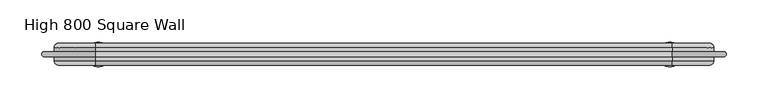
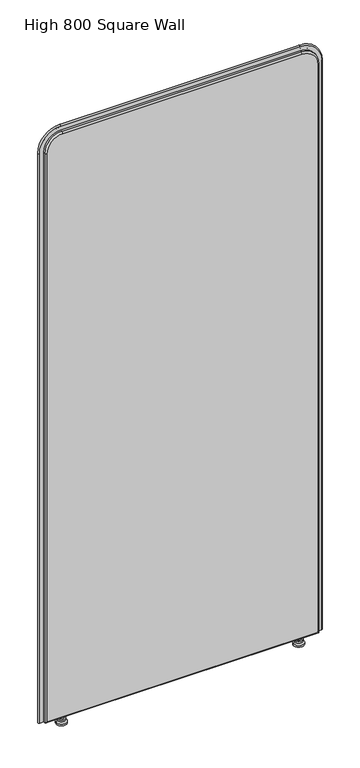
"""IFC4 building model written with IfcOpenShell, lengths in millimetres: furniture geometry, DBLTD_Sixteen3_PrivacyScreens_Artus_Square : High 800 Square Wall."""

from ifc_helpers import new_model, si_unit, point, frame, origin, place, context, project, spatial, polyline, circle_curve, ellipse_curve, trimmed, source, transform, mapped, element, save
from ifc_brep_helpers import plane_surface, cylinder_surface, revolved_surface, advanced_brep


def high_800_square_wall_713c82bf(model_context):
    return source(origin(), model_context, "Body", "AdvancedBrep", [
        advanced_brep(
        [(342.2938623, -820.0, 22.0), (335.2938623, -820.0, 22.0), (349.2938623, -820.0, 22.0), (335.2938623, -820.0, 15.0), (349.2938623, -820.0, 15.0), (330.8431626, -820.0, 15.0), (353.744562, -820.0, 15.0), (330.8431626, -820.0, 10.0), (353.744562, -820.0, 10.0), (327.2938623, -820.0, 5.0), (357.2938623, -820.0, 5.0), (327.2938623, -820.0, 0.0), (357.2938623, -820.0, 0.0), (342.2938623, -820.0, 0.0)],
        [
            (0, 1),
            (1, 2, circle_curve(frame((342.2938623, -820.0, 22.0), z_axis=(0.0, 0.0, 1.0), x_axis=(1.0, 0.0, 0.0)), 7.0)),
            (2, 0),
            (2, 1, circle_curve(frame((342.2938623, -820.0, 22.0), z_axis=(0.0, 0.0, 1.0), x_axis=(1.0, 0.0, 0.0)), 7.0)),
            (1, 3),
            (3, 4, circle_curve(frame((342.2938623, -820.0, 15.0), z_axis=(0.0, 0.0, 1.0), x_axis=(1.0, 0.0, 0.0)), 7.0)),
            (4, 2),
            (4, 3, circle_curve(frame((342.2938623, -820.0, 15.0), z_axis=(0.0, 0.0, 1.0), x_axis=(1.0, 0.0, 0.0)), 7.0)),
            (3, 5),
            (5, 6, circle_curve(frame((342.2938623, -820.0, 15.0), z_axis=(0.0, 0.0, 1.0), x_axis=(1.0, 0.0, 0.0)), 11.4506997)),
            (6, 4),
            (6, 5, circle_curve(frame((342.2938623, -820.0, 15.0), z_axis=(0.0, 0.0, 1.0), x_axis=(1.0, 0.0, 0.0)), 11.4506997)),
            (5, 7),
            (7, 8, circle_curve(frame((342.2938623, -820.0, 10.0), z_axis=(0.0, 0.0, 1.0), x_axis=(1.0, 0.0, 0.0)), 11.4506997)),
            (8, 6),
            (8, 7, circle_curve(frame((342.2938623, -820.0, 10.0), z_axis=(0.0, 0.0, 1.0), x_axis=(1.0, 0.0, 0.0)), 11.4506997)),
            (7, 9),
            (9, 10, circle_curve(frame((342.2938623, -820.0, 5.0), z_axis=(0.0, 0.0, 1.0), x_axis=(1.0, 0.0, 0.0)), 15.0)),
            (10, 8),
            (10, 9, circle_curve(frame((342.2938623, -820.0, 5.0), z_axis=(0.0, 0.0, 1.0), x_axis=(1.0, 0.0, 0.0)), 15.0)),
            (9, 11),
            (11, 12, circle_curve(frame((342.2938623, -820.0, 0.0), z_axis=(0.0, 0.0, 1.0), x_axis=(1.0, 0.0, 0.0)), 15.0)),
            (12, 10),
            (12, 11, circle_curve(frame((342.2938623, -820.0, 0.0), z_axis=(0.0, 0.0, 1.0), x_axis=(1.0, 0.0, 0.0)), 15.0)),
            (11, 13),
            (13, 12),
        ],
        [
            plane_surface(frame((342.2938623, -820.0, 22.0), z_axis=(0.0, 0.0, 1.0), x_axis=(1.0, 0.0, 0.0))),
            cylinder_surface(frame((342.2938623, -820.0, 5.0), z_axis=(0.0, 0.0, 1.0), x_axis=(1.0, 0.0, 0.0)), 7.0),
            plane_surface(frame((342.2938623, -820.0, 15.0), z_axis=(0.0, 0.0, 1.0), x_axis=(1.0, 0.0, 0.0))),
            cylinder_surface(frame((342.2938623, -820.0, 5.0), z_axis=(0.0, 0.0, 1.0), x_axis=(1.0, 0.0, 0.0)), 11.4506997),
            revolved_surface(polyline([(357.2938623, -820.0, 5.0), (353.744562, -820.0, 10.0)]), (342.2938623, -820.0, 5.0), (0.0, 0.0, 1.0)),
            cylinder_surface(frame((342.2938623, -820.0, 5.0), z_axis=(0.0, 0.0, 1.0), x_axis=(1.0, 0.0, 0.0)), 15.0),
            plane_surface(frame((342.2938623, -820.0, 0.0), z_axis=(0.0, 0.0, -1.0), x_axis=(1.0, 0.0, 0.0))),
        ],
        [
            (0, [[1, 2, 3]]),
            (0, [[-3, 4, -1]]),
            (1, [[5, 6, 7, -2]]),
            (1, [[-7, 8, -5, -4]]),
            (2, [[9, 10, 11, -6]]),
            (2, [[-11, 12, -9, -8]]),
            (3, [[13, 14, 15, -10]]),
            (3, [[-15, 16, -13, -12]]),
            (4, [[17, 18, 19, -14]]),
            (4, [[-19, 20, -17, -16]]),
            (5, [[21, 22, 23, -18]]),
            (5, [[-23, 24, -21, -20]]),
            (6, [[25, 26, -22]]),
            (6, [[-26, -25, -24]]),
        ],
    ),
        advanced_brep(
        [(-335.2938623, -820.0, 22.0), (-342.2938623, -820.0, 22.0), (-349.2938623, -820.0, 22.0), (-335.2938623, -820.0, 15.0), (-349.2938623, -820.0, 15.0), (-330.8431626, -820.0, 15.0), (-353.744562, -820.0, 15.0), (-330.8431626, -820.0, 10.0), (-353.744562, -820.0, 10.0), (-327.2938623, -820.0, 5.0), (-357.2938623, -820.0, 5.0), (-327.2938623, -820.0, 0.0), (-357.2938623, -820.0, 0.0), (-342.2938623, -820.0, 0.0)],
        [
            (0, 1),
            (1, 2),
            (2, 0, circle_curve(frame((-342.2938623, -820.0, 22.0), z_axis=(0.0, 0.0, 1.0), x_axis=(-1.0, 0.0, 0.0)), 7.0)),
            (0, 2, circle_curve(frame((-342.2938623, -820.0, 22.0), z_axis=(0.0, 0.0, 1.0), x_axis=(-1.0, 0.0, 0.0)), 7.0)),
            (3, 0),
            (2, 4),
            (4, 3, circle_curve(frame((-342.2938623, -820.0, 15.0), z_axis=(0.0, 0.0, 1.0), x_axis=(-1.0, 0.0, 0.0)), 7.0)),
            (3, 4, circle_curve(frame((-342.2938623, -820.0, 15.0), z_axis=(0.0, 0.0, 1.0), x_axis=(-1.0, 0.0, 0.0)), 7.0)),
            (5, 3),
            (4, 6),
            (6, 5, circle_curve(frame((-342.2938623, -820.0, 15.0), z_axis=(0.0, 0.0, 1.0), x_axis=(-1.0, 0.0, 0.0)), 11.4506997)),
            (5, 6, circle_curve(frame((-342.2938623, -820.0, 15.0), z_axis=(0.0, 0.0, 1.0), x_axis=(-1.0, 0.0, 0.0)), 11.4506997)),
            (7, 5),
            (6, 8),
            (8, 7, circle_curve(frame((-342.2938623, -820.0, 10.0), z_axis=(0.0, 0.0, 1.0), x_axis=(-1.0, 0.0, 0.0)), 11.4506997)),
            (7, 8, circle_curve(frame((-342.2938623, -820.0, 10.0), z_axis=(0.0, 0.0, 1.0), x_axis=(-1.0, 0.0, 0.0)), 11.4506997)),
            (9, 7),
            (8, 10),
            (10, 9, circle_curve(frame((-342.2938623, -820.0, 5.0), z_axis=(0.0, 0.0, 1.0), x_axis=(-1.0, 0.0, 0.0)), 15.0)),
            (9, 10, circle_curve(frame((-342.2938623, -820.0, 5.0), z_axis=(0.0, 0.0, 1.0), x_axis=(-1.0, 0.0, 0.0)), 15.0)),
            (11, 9),
            (10, 12),
            (12, 11, circle_curve(frame((-342.2938623, -820.0, 0.0), z_axis=(0.0, 0.0, 1.0), x_axis=(-1.0, 0.0, 0.0)), 15.0)),
            (11, 12, circle_curve(frame((-342.2938623, -820.0, 0.0), z_axis=(0.0, 0.0, 1.0), x_axis=(-1.0, 0.0, 0.0)), 15.0)),
            (13, 11),
            (12, 13),
        ],
        [
            plane_surface(frame((-342.2938623, -820.0, 22.0), z_axis=(0.0, 0.0, 1.0), x_axis=(-1.0, 0.0, 0.0))),
            cylinder_surface(frame((-342.2938623, -820.0, 5.0), z_axis=(0.0, 0.0, -1.0), x_axis=(-1.0, 0.0, 0.0)), 7.0),
            plane_surface(frame((-342.2938623, -820.0, 15.0), z_axis=(0.0, 0.0, 1.0), x_axis=(-1.0, 0.0, 0.0))),
            cylinder_surface(frame((-342.2938623, -820.0, 5.0), z_axis=(0.0, 0.0, -1.0), x_axis=(-1.0, 0.0, 0.0)), 11.4506997),
            revolved_surface(polyline([(-353.744562, -820.0, 10.0), (-357.2938623, -820.0, 5.0)]), (-342.2938623, -820.0, 5.0), (0.0, 0.0, -1.0)),
            cylinder_surface(frame((-342.2938623, -820.0, 5.0), z_axis=(0.0, 0.0, -1.0), x_axis=(-1.0, 0.0, 0.0)), 15.0),
            plane_surface(frame((-342.2938623, -820.0, 0.0), z_axis=(0.0, 0.0, -1.0), x_axis=(-1.0, 0.0, 0.0))),
        ],
        [
            (0, [[1, 2, 3]]),
            (0, [[-2, -1, 4]]),
            (1, [[5, -3, 6, 7]]),
            (1, [[-6, -4, -5, 8]]),
            (2, [[9, -7, 10, 11]]),
            (2, [[-10, -8, -9, 12]]),
            (3, [[13, -11, 14, 15]]),
            (3, [[-14, -12, -13, 16]]),
            (4, [[17, -15, 18, 19]]),
            (4, [[-18, -16, -17, 20]]),
            (5, [[21, -19, 22, 23]]),
            (5, [[-22, -20, -21, 24]]),
            (6, [[25, -23, 26]]),
            (6, [[-26, -24, -25]]),
        ],
    ),
        advanced_brep(
        [(-390.0, -807.0, 27.0), (-390.0, -807.0, 1760.0), (-345.0, -807.0, 1805.0), (345.0, -807.0, 1805.0), (390.0, -807.0, 1760.0), (390.0, -807.0, 27.0), (390.0, -833.0, 27.0), (390.0, -833.0, 1760.0), (345.0, -833.0, 1805.0), (-345.0, -833.0, 1805.0), (-390.0, -833.0, 1760.0), (-390.0, -833.0, 27.0), (345.0, -812.0, 1810.0), (-345.0, -812.0, 1810.0), (-345.0, -828.0, 1810.0), (345.0, -828.0, 1810.0), (-395.0, -812.0, 1760.0), (-395.0, -828.0, 1760.0), (-395.0, -812.0, 22.0), (-395.0, -828.0, 22.0), (395.0, -812.0, 22.0), (395.0, -828.0, 22.0), (395.0, -812.0, 1760.0), (395.0, -828.0, 1760.0)],
        [
            (0, 1),
            (1, 2, circle_curve(frame((-345.0, -807.0, 1760.0), z_axis=(0.0, 1.0, 0.0), x_axis=(0.0, 0.0, 1.0)), 45.0)),
            (2, 3),
            (3, 4, circle_curve(frame((345.0, -807.0, 1760.0), z_axis=(0.0, 1.0, 0.0), x_axis=(1.0, 0.0, 0.0)), 45.0)),
            (4, 5),
            (5, 0),
            (6, 7),
            (7, 8, circle_curve(frame((345.0, -833.0, 1760.0), z_axis=(0.0, -1.0, 0.0), x_axis=(1.0, 0.0, 0.0)), 45.0)),
            (8, 9),
            (9, 10, circle_curve(frame((-345.0, -833.0, 1760.0), z_axis=(0.0, -1.0, 0.0), x_axis=(0.0, 0.0, 1.0)), 45.0)),
            (10, 11),
            (11, 6),
            (12, 13),
            (13, 14),
            (14, 15),
            (15, 12),
            (13, 16, circle_curve(frame((-345.0, -812.0, 1760.0), z_axis=(0.0, -1.0, 0.0), x_axis=(1.0, 0.0, 0.0)), 50.0)),
            (16, 17),
            (17, 14, circle_curve(frame((-345.0, -828.0, 1760.0), z_axis=(0.0, 1.0, 0.0), x_axis=(1.0, 0.0, 0.0)), 50.0)),
            (16, 18),
            (18, 19),
            (19, 17),
            (18, 20),
            (20, 21),
            (21, 19),
            (20, 22),
            (22, 23),
            (23, 21),
            (15, 23, circle_curve(frame((345.0, -828.0, 1760.0), z_axis=(0.0, 1.0, 0.0), x_axis=(1.0, 0.0, 0.0)), 50.0)),
            (22, 12, circle_curve(frame((345.0, -812.0, 1760.0), z_axis=(0.0, -1.0, 0.0), x_axis=(1.0, 0.0, 0.0)), 50.0)),
            (18, 0, ellipse_curve(frame((-390.0, -812.0, 27.0), z_axis=(0.7071067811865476, 0.0, -0.7071067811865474), x_axis=(0.7071067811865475, 0.0, 0.7071067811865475)), 7.0710678, 5.0)),
            (5, 20, ellipse_curve(frame((390.0, -812.0, 27.0), z_axis=(-0.7071067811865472, 0.0, -0.7071067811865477), x_axis=(0.707106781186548, 0.0, -0.7071067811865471)), 7.0710678, 5.0)),
            (11, 19, ellipse_curve(frame((-390.0, -828.0, 27.0), z_axis=(0.7071067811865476, 0.0, -0.7071067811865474), x_axis=(0.7071067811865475, 0.0, 0.7071067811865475)), 7.0710678, 5.0)),
            (21, 6, ellipse_curve(frame((390.0, -828.0, 27.0), z_axis=(-0.7071067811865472, 0.0, -0.7071067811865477), x_axis=(0.707106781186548, 0.0, -0.7071067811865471)), 7.0710678, 5.0)),
            (4, 22, circle_curve(frame((390.0, -812.0, 1760.0), z_axis=(0.0, 0.0, -1.0), x_axis=(1.0, 0.0, 0.0)), 5.0)),
            (23, 7, circle_curve(frame((390.0, -828.0, 1760.0), z_axis=(0.0, 0.0, -1.0), x_axis=(1.0, 0.0, 0.0)), 5.0)),
            (3, 12, circle_curve(frame((345.0, -812.0, 1805.0), z_axis=(1.0, 0.0, 0.0), x_axis=(0.0, 0.0, 1.0)), 5.0)),
            (15, 8, circle_curve(frame((345.0, -828.0, 1805.0), z_axis=(1.0, 0.0, 0.0), x_axis=(0.0, 0.0, 1.0)), 5.0)),
            (2, 13, circle_curve(frame((-345.0, -812.0, 1805.0), z_axis=(1.0, 0.0, 0.0), x_axis=(0.0, 0.0, 1.0)), 5.0)),
            (14, 9, circle_curve(frame((-345.0, -828.0, 1805.0), z_axis=(1.0, 0.0, 0.0), x_axis=(0.0, 0.0, 1.0)), 5.0)),
            (1, 16, circle_curve(frame((-390.0, -812.0, 1760.0), z_axis=(0.0, 0.0, 1.0), x_axis=(-1.0, 0.0, 0.0)), 5.0)),
            (17, 10, circle_curve(frame((-390.0, -828.0, 1760.0), z_axis=(0.0, 0.0, 1.0), x_axis=(-1.0, 0.0, 0.0)), 5.0)),
        ],
        [
            plane_surface(frame((-345.0, -807.0, 1810.0), z_axis=(0.0, 1.0, 0.0), x_axis=(-1.0, 0.0, 0.0))),
            plane_surface(frame((-345.0, -833.0, 1810.0), z_axis=(0.0, -1.0, 0.0), x_axis=(1.0, 0.0, 0.0))),
            plane_surface(frame((345.0, -807.0, 1810.0), z_axis=(0.0, 0.0, 1.0), x_axis=(0.0, -1.0, 0.0))),
            cylinder_surface(frame((-345.0, -833.0, 1760.0), z_axis=(0.0, 1.0, 0.0), x_axis=(1.0, 0.0, 0.0)), 50.0),
            plane_surface(frame((-395.0, -807.0, 1760.0), z_axis=(-1.0, 0.0, 0.0), x_axis=(0.0, -1.0, 0.0))),
            plane_surface(frame((-395.0, -807.0, 22.0), z_axis=(0.0, 0.0, -1.0), x_axis=(0.0, -1.0, 0.0))),
            plane_surface(frame((395.0, -807.0, 22.0), z_axis=(1.0, 0.0, 0.0), x_axis=(0.0, -1.0, 0.0))),
            cylinder_surface(frame((345.0, -833.0, 1760.0), z_axis=(0.0, 1.0, 0.0), x_axis=(1.0, 0.0, 0.0)), 50.0),
            cylinder_surface(frame((-395.0, -812.0, 27.0), z_axis=(1.0, 0.0, 0.0), x_axis=(0.0, 0.0, -1.0)), 5.0),
            cylinder_surface(frame((-395.0, -828.0, 27.0), z_axis=(1.0, 0.0, 0.0), x_axis=(0.0, 0.0, -1.0)), 5.0),
            cylinder_surface(frame((390.0, -812.0, 22.0), z_axis=(0.0, 0.0, 1.0), x_axis=(1.0, 0.0, 0.0)), 5.0),
            cylinder_surface(frame((390.0, -828.0, 22.0), z_axis=(0.0, 0.0, 1.0), x_axis=(1.0, 0.0, 0.0)), 5.0),
            revolved_surface(trimmed(ellipse_curve(frame((390.0, -812.0, 1760.0), z_axis=(0.0, 0.0, 1.0), x_axis=(1.0, 0.0, 0.0)), 5.0, 5.0), [point((395.0, -812.0, 1760.0))], [point((390.0, -807.0, 1760.0))], True, "CARTESIAN"), (345.0, -807.0, 1760.0), (0.0, 1.0, 0.0)),
            revolved_surface(trimmed(ellipse_curve(frame((390.0, -828.0, 1760.0), z_axis=(0.0, 0.0, 1.0), x_axis=(1.0, 0.0, 0.0)), 5.0, 5.0), [point((390.0, -833.0, 1760.0))], [point((395.0, -828.0, 1760.0))], True, "CARTESIAN"), (345.0, -807.0, 1760.0), (0.0, 1.0, 0.0)),
            cylinder_surface(frame((345.0, -812.0, 1805.0), z_axis=(-1.0, 0.0, 0.0), x_axis=(0.0, 0.0, 1.0)), 5.0),
            cylinder_surface(frame((345.0, -828.0, 1805.0), z_axis=(-1.0, 0.0, 0.0), x_axis=(0.0, 0.0, 1.0)), 5.0),
            revolved_surface(trimmed(ellipse_curve(frame((-345.0, -812.0, 1805.0), z_axis=(-1.0, 0.0, 0.0), x_axis=(0.0, 0.0, 1.0)), 5.0, 5.0), [point((-345.0, -812.0, 1810.0))], [point((-345.0, -807.0, 1805.0))], True, "CARTESIAN"), (-345.0, -807.0, 1760.0), (0.0, 1.0, 0.0)),
            revolved_surface(trimmed(ellipse_curve(frame((-345.0, -828.0, 1805.0), z_axis=(-1.0, 0.0, 0.0), x_axis=(0.0, 0.0, 1.0)), 5.0, 5.0), [point((-345.0, -833.0, 1805.0))], [point((-345.0, -828.0, 1810.0))], True, "CARTESIAN"), (-345.0, -807.0, 1760.0), (0.0, 1.0, 0.0)),
            cylinder_surface(frame((-390.0, -812.0, 1760.0), z_axis=(0.0, 0.0, -1.0), x_axis=(-1.0, 0.0, 0.0)), 5.0),
            cylinder_surface(frame((-390.0, -828.0, 1760.0), z_axis=(0.0, 0.0, -1.0), x_axis=(-1.0, 0.0, 0.0)), 5.0),
        ],
        [
            (0, [[1, 2, 3, 4, 5, 6]]),
            (1, [[7, 8, 9, 10, 11, 12]]),
            (2, [[13, 14, 15, 16]]),
            (3, [[17, 18, 19, -14]]),
            (4, [[20, 21, 22, -18]]),
            (5, [[23, 24, 25, -21]]),
            (6, [[26, 27, 28, -24]]),
            (7, [[29, -27, 30, -16]]),
            (8, [[-23, 31, -6, 32]]),
            (9, [[-12, 33, -25, 34]]),
            (10, [[-5, 35, -26, -32]]),
            (11, [[-28, 36, -7, -34]]),
            (12, [[-4, 37, -30, -35]]),
            (13, [[-29, 38, -8, -36]]),
            (14, [[-3, 39, -13, -37]]),
            (15, [[-15, 40, -9, -38]]),
            (16, [[-2, 41, -17, -39]]),
            (17, [[-19, 42, -10, -40]]),
            (18, [[-20, -41, -1, -31]]),
            (19, [[-11, -42, -22, -33]]),
        ],
    ),
        advanced_brep(
        [(406.9577057, -823.0, 22.0), (395.0, -823.0, 22.0), (395.0, -817.0, 22.0), (406.9577057, -817.0, 22.0), (406.9577057, -817.0, 1760.0), (406.9577057, -823.0, 1760.0), (395.0, -817.0, 1760.0), (345.0, -817.0, 1810.0), (-345.0, -817.0, 1810.0), (-395.0, -817.0, 1760.0), (-395.0, -817.0, 22.0), (-406.9577057, -817.0, 22.0), (-406.9577057, -817.0, 1760.0), (-345.0, -817.0, 1821.9577057), (345.0, -817.0, 1821.9577057), (395.0, -823.0, 1760.0), (345.0, -823.0, 1821.9577057), (-345.0, -823.0, 1821.9577057), (-406.9577057, -823.0, 1760.0), (-406.9577057, -823.0, 22.0), (-395.0, -823.0, 22.0), (-395.0, -823.0, 1760.0), (-345.0, -823.0, 1810.0), (345.0, -823.0, 1810.0)],
        [
            (0, 1),
            (1, 2),
            (2, 3),
            (3, 0, circle_curve(frame((406.9577057, -820.0, 22.0), z_axis=(0.0, 0.0, -1.0), x_axis=(1.0, 0.0, 0.0)), 3.0)),
            (3, 4),
            (4, 5, circle_curve(frame((406.9577057, -820.0, 1760.0), z_axis=(0.0, 0.0, -1.0), x_axis=(1.0, 0.0, 0.0)), 3.0)),
            (5, 0),
            (2, 6),
            (6, 7, circle_curve(frame((345.0, -817.0, 1760.0), z_axis=(0.0, -1.0, 0.0), x_axis=(1.0, 0.0, 0.0)), 50.0)),
            (7, 8),
            (8, 9, circle_curve(frame((-345.0, -817.0, 1760.0), z_axis=(0.0, -1.0, 0.0), x_axis=(0.0, 0.0, 1.0)), 50.0)),
            (9, 10),
            (10, 11),
            (11, 12),
            (12, 13, circle_curve(frame((-345.0, -817.0, 1760.0), z_axis=(0.0, 1.0, 0.0), x_axis=(0.0, 0.0, 1.0)), 61.9577057)),
            (13, 14),
            (14, 4, circle_curve(frame((345.0, -817.0, 1760.0), z_axis=(0.0, 1.0, 0.0), x_axis=(1.0, 0.0, 0.0)), 61.9577057)),
            (1, 15),
            (15, 6),
            (5, 16, circle_curve(frame((345.0, -823.0, 1760.0), z_axis=(0.0, -1.0, 0.0), x_axis=(1.0, 0.0, 0.0)), 61.9577057)),
            (16, 17),
            (17, 18, circle_curve(frame((-345.0, -823.0, 1760.0), z_axis=(0.0, -1.0, 0.0), x_axis=(0.0, 0.0, 1.0)), 61.9577057)),
            (18, 19),
            (19, 20),
            (20, 21),
            (21, 22, circle_curve(frame((-345.0, -823.0, 1760.0), z_axis=(0.0, 1.0, 0.0), x_axis=(0.0, 0.0, 1.0)), 50.0)),
            (22, 23),
            (23, 15, circle_curve(frame((345.0, -823.0, 1760.0), z_axis=(0.0, 1.0, 0.0), x_axis=(1.0, 0.0, 0.0)), 50.0)),
            (14, 16, circle_curve(frame((345.0, -820.0, 1821.9577057), z_axis=(1.0, 0.0, 0.0), x_axis=(0.0, 0.0, 1.0)), 3.0)),
            (23, 7),
            (13, 17, circle_curve(frame((-345.0, -820.0, 1821.9577057), z_axis=(1.0, 0.0, 0.0), x_axis=(0.0, 0.0, 1.0)), 3.0)),
            (22, 8),
            (12, 18, circle_curve(frame((-406.9577057, -820.0, 1760.0), z_axis=(0.0, 0.0, 1.0), x_axis=(-1.0, 0.0, 0.0)), 3.0)),
            (21, 9),
            (19, 11, circle_curve(frame((-406.9577057, -820.0, 22.0), z_axis=(0.0, 0.0, -1.0), x_axis=(-1.0, 0.0, 0.0)), 3.0)),
            (10, 20),
        ],
        [
            plane_surface(frame((395.0, -807.0, 22.0), z_axis=(0.0, 0.0, -1.0), x_axis=(1.0, 0.0, 0.0))),
            cylinder_surface(frame((406.9577057, -820.0, 22.0), z_axis=(0.0, 0.0, -1.0), x_axis=(1.0, 0.0, 0.0)), 3.0),
            plane_surface(frame((406.9577057, -817.0, 22.0), z_axis=(0.0, 1.0, 0.0), x_axis=(0.0, 0.0, 1.0))),
            plane_surface(frame((395.0, -817.0, 22.0), z_axis=(-1.0, 0.0, 0.0), x_axis=(0.0, 0.0, 1.0))),
            plane_surface(frame((395.0, -823.0, 22.0), z_axis=(0.0, -1.0, 0.0), x_axis=(0.0, 0.0, 1.0))),
            revolved_surface(trimmed(ellipse_curve(frame((406.9577057, -820.0, 1760.0), z_axis=(0.0, 0.0, 1.0), x_axis=(1.0, 0.0, 0.0)), 3.0, 3.0), [point((406.9577057, -823.0, 1760.0))], [point((406.9577057, -817.0, 1760.0))], True, "CARTESIAN"), (345.0, -807.0, 1760.0), (0.0, 1.0, 0.0)),
            revolved_surface(polyline([(395.0, -817.0, 1760.0), (395.0, -823.0, 1760.0)]), (345.0, -807.0, 1760.0), (0.0, 1.0, 0.0)),
            cylinder_surface(frame((345.0, -820.0, 1821.9577057), z_axis=(1.0, 0.0, 0.0), x_axis=(0.0, 0.0, 1.0)), 3.0),
            plane_surface(frame((345.0, -817.0, 1810.0), z_axis=(0.0, 0.0, -1.0), x_axis=(-1.0, 0.0, 0.0))),
            revolved_surface(trimmed(ellipse_curve(frame((-345.0, -820.0, 1821.9577057), z_axis=(-1.0, 0.0, 0.0), x_axis=(0.0, 0.0, 1.0)), 3.0, 3.0), [point((-345.0, -823.0, 1821.9577057))], [point((-345.0, -817.0, 1821.9577057))], True, "CARTESIAN"), (-345.0, -807.0, 1760.0), (0.0, 1.0, 0.0)),
            revolved_surface(polyline([(-345.0, -817.0, 1810.0), (-345.0, -823.0, 1810.0)]), (-345.0, -807.0, 1760.0), (0.0, 1.0, 0.0)),
            plane_surface(frame((-395.0, -807.0, 22.0), z_axis=(0.0, 0.0, -1.0), x_axis=(-1.0, 0.0, 0.0))),
            cylinder_surface(frame((-406.9577057, -820.0, 1760.0), z_axis=(0.0, 0.0, 1.0), x_axis=(-1.0, 0.0, 0.0)), 3.0),
            plane_surface(frame((-395.0, -817.0, 1760.0), z_axis=(1.0, 0.0, 0.0), x_axis=(0.0, 0.0, -1.0))),
        ],
        [
            (0, [[1, 2, 3, 4]]),
            (1, [[5, 6, 7, -4]]),
            (2, [[8, 9, 10, 11, 12, 13, 14, 15, 16, 17, -5, -3]]),
            (3, [[18, 19, -8, -2]]),
            (4, [[-7, 20, 21, 22, 23, 24, 25, 26, 27, 28, -18, -1]]),
            (5, [[29, -20, -6, -17]]),
            (6, [[30, -9, -19, -28]]),
            (7, [[-16, 31, -21, -29]]),
            (8, [[-27, 32, -10, -30]]),
            (9, [[33, -22, -31, -15]]),
            (10, [[34, -11, -32, -26]]),
            (11, [[35, -13, 36, -24]]),
            (12, [[-14, -35, -23, -33]]),
            (13, [[-25, -36, -12, -34]]),
        ],
    ),
    ])


if __name__ == "__main__":
    model = new_model("IFC4")
    model_context = context("Model", 3, world=origin())
    ifc_project = project(units=[si_unit("LENGTHUNIT", "METRE", prefix="MILLI")], contexts=[model_context])
    site = spatial("IfcSite", under=ifc_project)
    building = spatial("IfcBuilding", under=site)
    placement = place(None, origin())
    high_800_square_wall_shape = high_800_square_wall_713c82bf(model_context)
    element("IfcFurniture", 1, ObjectType="DBLTD_Sixteen3_PrivacyScreens_Artus_Square : High 800 Square Wall", at=placement, inside=building, context=model_context, shape_type="MappedRepresentation", body=[
        mapped(high_800_square_wall_shape, transform((0.0, 0.0, 0.0), x_axis=(1.0, 0.0, 0.0), y_axis=(0.0, 1.0, 0.0), z_axis=(0.0, 0.0, 1.0))),
    ])
    save(model, "model.ifc")
